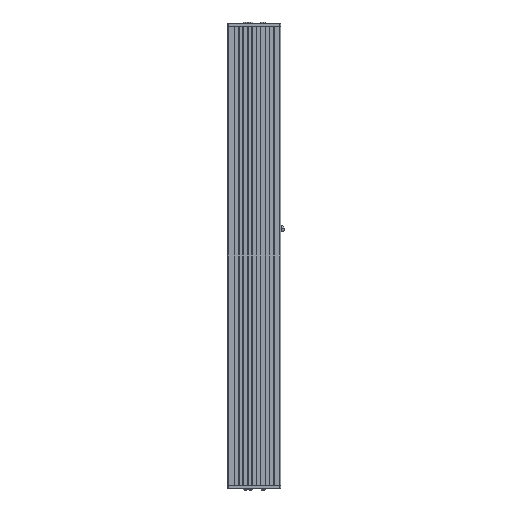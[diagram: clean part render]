
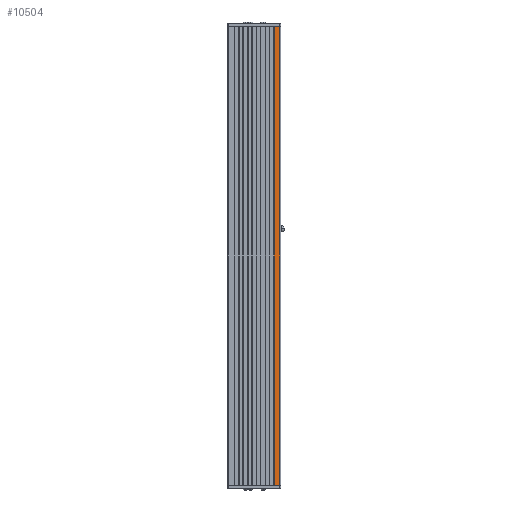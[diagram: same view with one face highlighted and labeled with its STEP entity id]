
A CAD part, front view. The second image highlights one B-rep face of the part: STEP entity #10504.
In plain terms, the highlighted planar face has unit normal (0, -1, 0).
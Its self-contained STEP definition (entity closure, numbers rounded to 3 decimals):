
#396 = VERTEX_POINT ( 'NONE', #39284 ) ;
#397 = VERTEX_POINT ( 'NONE', #39285 ) ;
#6946 = AXIS2_PLACEMENT_3D ( 'NONE', #16403, #16404, #16405 ) ;
#10504 = ADVANCED_FACE ( 'NONE', ( #37263 ), #16402, .F. ) ;
#12877 = VERTEX_POINT ( 'NONE', #31613 ) ;
#12904 = VERTEX_POINT ( 'NONE', #31640 ) ;
#16402 = PLANE ( 'NONE',  #6946 ) ;
#16403 = CARTESIAN_POINT ( 'NONE',  ( 52.074, -36.746, 1172. ) ) ;
#16404 = DIRECTION ( 'NONE',  ( 0., 1., 0. ) ) ;
#16405 = DIRECTION ( 'NONE',  ( 0., 0., 1. ) ) ;
#17728 = ORIENTED_EDGE ( 'NONE', *, *, #36337, .T. ) ;
#17729 = ORIENTED_EDGE ( 'NONE', *, *, #36486, .T. ) ;
#17730 = ORIENTED_EDGE ( 'NONE', *, *, #36283, .F. ) ;
#17731 = ORIENTED_EDGE ( 'NONE', *, *, #36485, .T. ) ;
#26304 = EDGE_LOOP ( 'NONE', ( #17728, #17729, #17730, #17731 ) ) ;
#31613 = CARTESIAN_POINT ( 'NONE',  ( 66.574, -36.746, 0. ) ) ;
#31640 = CARTESIAN_POINT ( 'NONE',  ( 52.074, -36.746, 0. ) ) ;
#33544 = CARTESIAN_POINT ( 'NONE',  ( 52.074, -36.746, 1172. ) ) ;
#33545 = DIRECTION ( 'NONE',  ( 1., 0., 0. ) ) ;
#33677 = CARTESIAN_POINT ( 'NONE',  ( 52.074, -36.746, 0. ) ) ;
#33678 = DIRECTION ( 'NONE',  ( 1., 0., 0. ) ) ;
#33988 = CARTESIAN_POINT ( 'NONE',  ( 52.074, -36.746, 1172. ) ) ;
#33989 = DIRECTION ( 'NONE',  ( 0., 0., -1. ) ) ;
#33990 = CARTESIAN_POINT ( 'NONE',  ( 66.574, -36.746, 1172. ) ) ;
#33991 = DIRECTION ( 'NONE',  ( 0., 0., 1. ) ) ;
#36283 = EDGE_CURVE ( 'NONE', #397, #396, #42814, .T. ) ;
#36337 = EDGE_CURVE ( 'NONE', #12904, #12877, #42898, .T. ) ;
#36485 = EDGE_CURVE ( 'NONE', #397, #12904, #43180, .T. ) ;
#36486 = EDGE_CURVE ( 'NONE', #12877, #396, #43182, .T. ) ;
#37263 = FACE_OUTER_BOUND ( 'NONE', #26304, .T. ) ;
#39284 = CARTESIAN_POINT ( 'NONE',  ( 66.574, -36.746, 1172. ) ) ;
#39285 = CARTESIAN_POINT ( 'NONE',  ( 52.074, -36.746, 1172. ) ) ;
#42814 = LINE ( 'NONE', #33544, #42815 ) ;
#42815 = VECTOR ( 'NONE', #33545, 1000. ) ;
#42898 = LINE ( 'NONE', #33677, #42900 ) ;
#42900 = VECTOR ( 'NONE', #33678, 1000. ) ;
#43180 = LINE ( 'NONE', #33988, #43181 ) ;
#43181 = VECTOR ( 'NONE', #33989, 1000. ) ;
#43182 = LINE ( 'NONE', #33990, #43183 ) ;
#43183 = VECTOR ( 'NONE', #33991, 1000. ) ;
